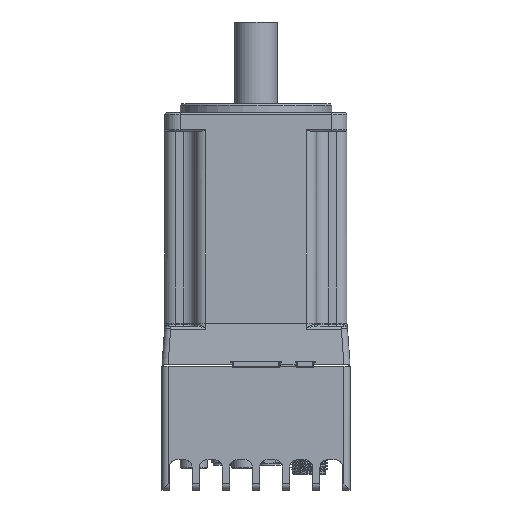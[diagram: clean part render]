
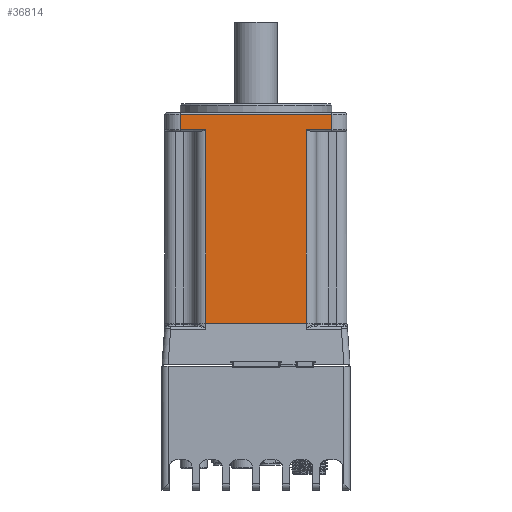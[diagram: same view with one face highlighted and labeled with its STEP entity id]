
A CAD part, front view. The second image highlights one B-rep face of the part: STEP entity #36814.
In plain terms, the highlighted planar face has unit normal (0, -1, 0).
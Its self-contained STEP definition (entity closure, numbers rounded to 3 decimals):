
#1214 = CARTESIAN_POINT ( 'NONE',  ( 29.992, -29.986, 27.31 ) ) ;
#2545 = VERTEX_POINT ( 'NONE', #29147 ) ;
#6302 = LINE ( 'NONE', #35996, #11809 ) ;
#6519 = PLANE ( 'NONE',  #51888 ) ;
#6888 = DIRECTION ( 'NONE',  ( 0., 1., 0. ) ) ;
#7035 = VERTEX_POINT ( 'NONE', #26632 ) ;
#9005 = CARTESIAN_POINT ( 'NONE',  ( -30.008, -29.986, 28.81 ) ) ;
#10744 = EDGE_CURVE ( 'NONE', #35963, #2545, #66858, .T. ) ;
#10833 = CARTESIAN_POINT ( 'NONE',  ( 24.992, -29.986, 33.81 ) ) ;
#11670 = CARTESIAN_POINT ( 'NONE',  ( 16.492, -29.986, 28.81 ) ) ;
#11809 = VECTOR ( 'NONE', #58632, 1000. ) ;
#12319 = VECTOR ( 'NONE', #20860, 1000. ) ;
#12576 = EDGE_LOOP ( 'NONE', ( #74041, #18519, #64341, #24126, #50482, #18595, #26388, #33899 ) ) ;
#14239 = LINE ( 'NONE', #9005, #20699 ) ;
#15470 = EDGE_CURVE ( 'NONE', #31308, #35963, #66093, .T. ) ;
#16243 = VERTEX_POINT ( 'NONE', #11670 ) ;
#18519 = ORIENTED_EDGE ( 'NONE', *, *, #10744, .T. ) ;
#18548 = VERTEX_POINT ( 'NONE', #10833 ) ;
#18595 = ORIENTED_EDGE ( 'NONE', *, *, #67702, .T. ) ;
#19145 = CARTESIAN_POINT ( 'NONE',  ( -16.508, -29.986, 28.81 ) ) ;
#20699 = VECTOR ( 'NONE', #54550, 1000. ) ;
#20860 = DIRECTION ( 'NONE',  ( 0., 0., -1. ) ) ;
#20955 = VECTOR ( 'NONE', #49573, 1000. ) ;
#23958 = EDGE_CURVE ( 'NONE', #7035, #62688, #27609, .T. ) ;
#24126 = ORIENTED_EDGE ( 'NONE', *, *, #48287, .T. ) ;
#26388 = ORIENTED_EDGE ( 'NONE', *, *, #23958, .T. ) ;
#26512 = VECTOR ( 'NONE', #71061, 1000. ) ;
#26632 = CARTESIAN_POINT ( 'NONE',  ( -25.008, -29.986, 33.81 ) ) ;
#27232 = CARTESIAN_POINT ( 'NONE',  ( -25.008, -29.986, 27.31 ) ) ;
#27609 = LINE ( 'NONE', #27232, #12319 ) ;
#28169 = LINE ( 'NONE', #45499, #41111 ) ;
#28346 = EDGE_CURVE ( 'NONE', #51554, #18548, #48494, .T. ) ;
#29147 = CARTESIAN_POINT ( 'NONE',  ( 16.492, -29.986, -34.99 ) ) ;
#31308 = VERTEX_POINT ( 'NONE', #19145 ) ;
#31435 = CARTESIAN_POINT ( 'NONE',  ( -16.508, -29.986, 27.31 ) ) ;
#32477 = CARTESIAN_POINT ( 'NONE',  ( -16.508, -29.986, -34.99 ) ) ;
#32963 = DIRECTION ( 'NONE',  ( 1., 0., 0. ) ) ;
#33899 = ORIENTED_EDGE ( 'NONE', *, *, #45302, .T. ) ;
#34115 = CARTESIAN_POINT ( 'NONE',  ( 24.992, -29.986, 28.81 ) ) ;
#35963 = VERTEX_POINT ( 'NONE', #32477 ) ;
#35996 = CARTESIAN_POINT ( 'NONE',  ( -30.008, -29.986, 28.81 ) ) ;
#36663 = CARTESIAN_POINT ( 'NONE',  ( -25.008, -29.986, 28.81 ) ) ;
#36814 = ADVANCED_FACE ( 'NONE', ( #63755 ), #6519, .F. ) ;
#38637 = VECTOR ( 'NONE', #32963, 1000. ) ;
#38924 = VECTOR ( 'NONE', #66473, 1000. ) ;
#39013 = LINE ( 'NONE', #61982, #20955 ) ;
#39822 = DIRECTION ( 'NONE',  ( 0., 0., 1. ) ) ;
#41111 = VECTOR ( 'NONE', #39822, 1000. ) ;
#44267 = CARTESIAN_POINT ( 'NONE',  ( -16.508, -29.986, -34.99 ) ) ;
#45302 = EDGE_CURVE ( 'NONE', #62688, #31308, #6302, .T. ) ;
#45499 = CARTESIAN_POINT ( 'NONE',  ( 16.492, -29.986, 27.31 ) ) ;
#48120 = CARTESIAN_POINT ( 'NONE',  ( 24.992, -29.986, 27.31 ) ) ;
#48287 = EDGE_CURVE ( 'NONE', #16243, #51554, #14239, .T. ) ;
#48494 = LINE ( 'NONE', #48120, #26512 ) ;
#49573 = DIRECTION ( 'NONE',  ( -1., 0., 0. ) ) ;
#50482 = ORIENTED_EDGE ( 'NONE', *, *, #28346, .T. ) ;
#51554 = VERTEX_POINT ( 'NONE', #34115 ) ;
#51888 = AXIS2_PLACEMENT_3D ( 'NONE', #1214, #6888, #69391 ) ;
#54550 = DIRECTION ( 'NONE',  ( 1., 0., 0. ) ) ;
#58632 = DIRECTION ( 'NONE',  ( 1., 0., 0. ) ) ;
#61982 = CARTESIAN_POINT ( 'NONE',  ( -25.008, -29.986, 33.81 ) ) ;
#62688 = VERTEX_POINT ( 'NONE', #36663 ) ;
#63755 = FACE_OUTER_BOUND ( 'NONE', #12576, .T. ) ;
#64341 = ORIENTED_EDGE ( 'NONE', *, *, #73443, .T. ) ;
#66093 = LINE ( 'NONE', #31435, #38924 ) ;
#66473 = DIRECTION ( 'NONE',  ( 0., 0., -1. ) ) ;
#66858 = LINE ( 'NONE', #44267, #38637 ) ;
#67702 = EDGE_CURVE ( 'NONE', #18548, #7035, #39013, .T. ) ;
#69391 = DIRECTION ( 'NONE',  ( 1., 0., 0. ) ) ;
#71061 = DIRECTION ( 'NONE',  ( 0., 0., 1. ) ) ;
#73443 = EDGE_CURVE ( 'NONE', #2545, #16243, #28169, .T. ) ;
#74041 = ORIENTED_EDGE ( 'NONE', *, *, #15470, .T. ) ;
